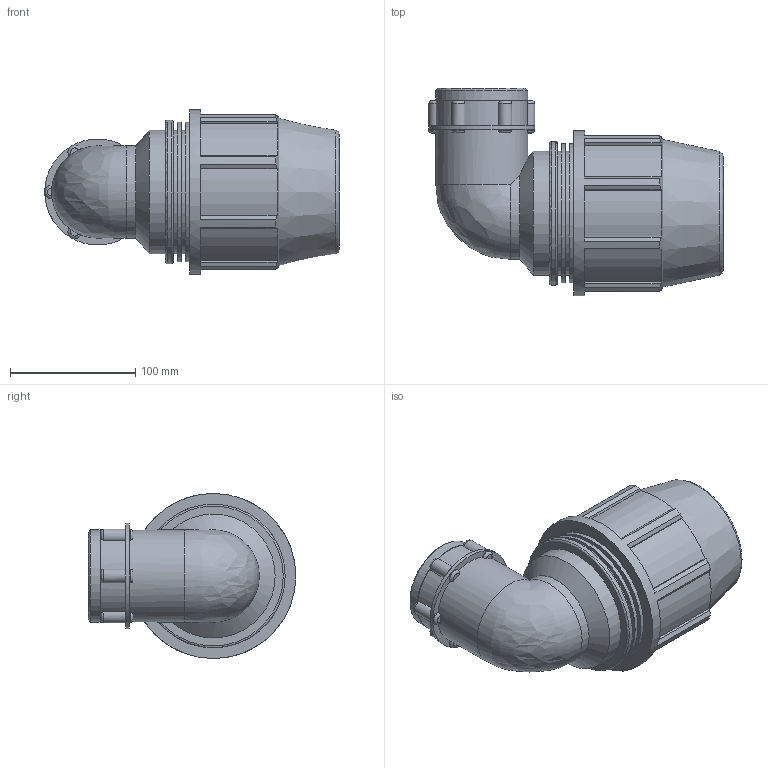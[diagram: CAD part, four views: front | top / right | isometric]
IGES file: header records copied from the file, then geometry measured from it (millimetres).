
Global section: file name: 871500075020_181500075020.ipt; native system: Autodesk Inventor 2015; preprocessor: unknown; author: KIM; date: 20170608.042605; units: millimetre
Bounding box: 235.35 x 166 x 132 mm (x, y, z)
Volume: 1287395.7 mm3; surface area: 176071.4 mm2
Topology: 1 solids, 1 shells, 138 faces, 372 edges, 243 vertices
Faces by surface type: plane 71, cylinder 37, revolution 22, cone 6, bspline 2
Full cylindrical faces by diameter (mm): 73.653 x2, 84.701 x1, 99 x3, 111.395 x2, 114.84 x1, 132 x1
